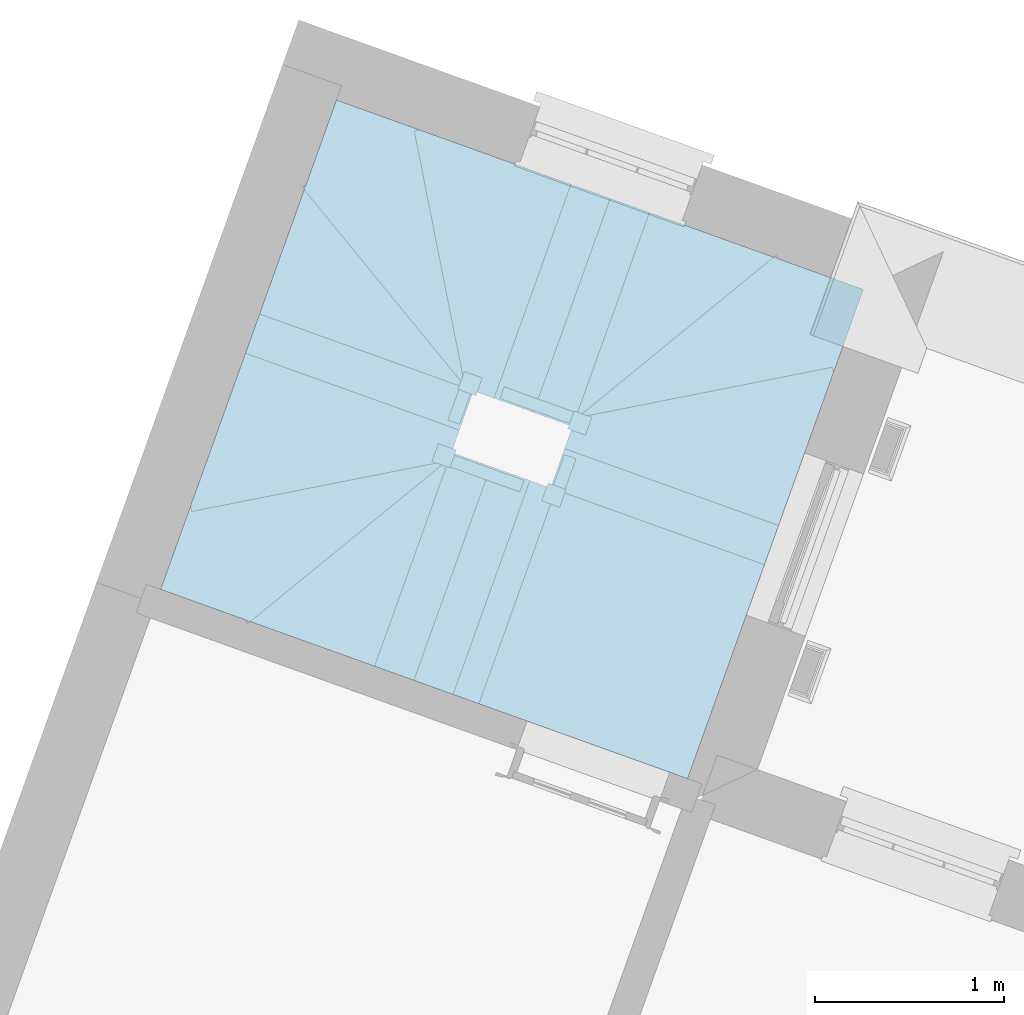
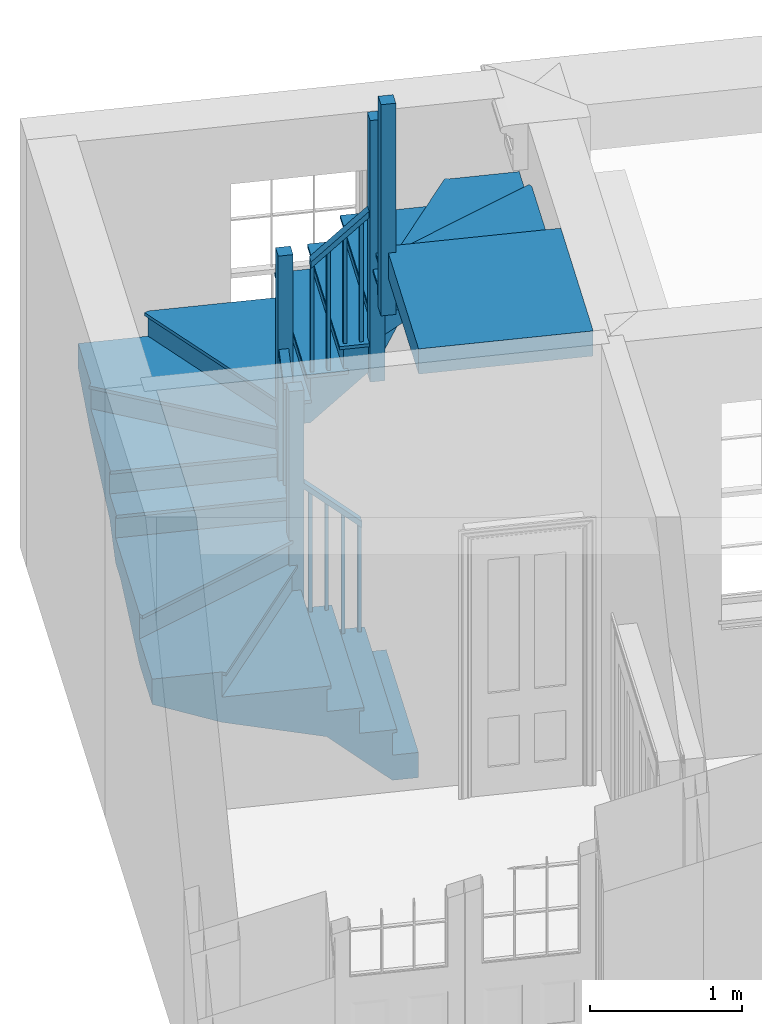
# One storey, part 8 of 8: 1 stair.
"""IFC4 building model written with IfcOpenShell, lengths in metres."""

from ifc_helpers import new_model, si_unit, frame, origin, origin_with_axes, place, context, subcontext, project, spatial, faceted_brep, element, save


model = new_model("IFC4")

# Units and contexts
model_context = context("Model", 3, world=origin_with_axes())
body_context = subcontext(model_context, "Body", "Model", "MODEL_VIEW")
ifc_project = project(units=[si_unit("PLANEANGLEUNIT", "RADIAN"), si_unit("MASSUNIT", "GRAM", prefix="KILO"), si_unit("FORCEUNIT", "NEWTON", prefix="KILO"), si_unit("LENGTHUNIT", "METRE"), si_unit("AREAUNIT", "SQUARE_METRE"), si_unit("VOLUMEUNIT", "CUBIC_METRE")], contexts=[model_context, model_context])

# Sites, building, storey
site_1_placement = place(None, origin_with_axes())
site_1 = spatial("IfcSite", under=ifc_project, at=site_1_placement, Name="Tamar")
site_2_placement = place(site_1_placement, origin_with_axes())
site_2 = spatial("IfcSite", under=site_1, at=site_2_placement, Name="Site plot-25", CompositionType="ELEMENT")
building_placement = place(None, origin_with_axes())
building = spatial("IfcBuilding", under=site_2, at=building_placement, Name="Building plot-25", CompositionType="ELEMENT")
storey_placement = place(None, frame((0.0, 0.0, 26.0), z_axis=(0.0, 0.0, 1.0), x_axis=(1.0, 0.0, 0.0)))
storey = spatial("IfcBuildingStorey", under=building, at=storey_placement, Name="plot-25 0", CompositionType="ELEMENT", Elevation=26.0)

# Stair
stair_placement = place(None, origin())
element("IfcStair", 1, at=stair_placement, inside=storey, Name="Stair", PredefinedType="NOTDEFINED", context=body_context, shape_type="Brep", body=[
    faceted_brep([(277.512074, 275.608882, 29.247059), (278.613146, 275.21323, 29.247059), (278.687542, 275.420269, 29.247059), (277.58647, 275.815921, 29.247059), (277.58647, 275.815921, 28.841176), (278.687542, 275.420269, 28.841176), (278.613146, 275.21323, 29.044118), (277.512074, 275.608882, 29.044118)], [[[0, 1, 2, 3]], [[4, 5, 6, 7]], [[7, 6, 1, 0]], [[1, 6, 5, 2]], [[5, 4, 3, 2]], [[3, 4, 7, 0]]]),
    faceted_brep([(278.687542, 275.420269, 29.222059), (278.697687, 275.448502, 29.222059), (278.687542, 275.420269, 29.247059), (278.603001, 275.184997, 29.222059), (278.613146, 275.21323, 29.222059), (278.613146, 275.21323, 29.247059), (278.697687, 275.448502, 29.247059), (278.603001, 275.184997, 29.247059), (277.568382, 275.854298, 29.247059), (277.58647, 275.815921, 29.247059), (277.58647, 275.815921, 29.222059), (277.568382, 275.854298, 29.222059), (277.473696, 275.590794, 29.247059), (277.512074, 275.608882, 29.247059), (277.512074, 275.608882, 29.222059), (277.473696, 275.590794, 29.222059)], [[[0, 1, 2]], [[3, 4, 5]], [[1, 6, 2]], [[7, 3, 5]], [[2, 6, 8, 9]], [[0, 2, 9, 10]], [[1, 0, 10, 11]], [[6, 1, 11, 8]], [[9, 8, 12, 13]], [[10, 9, 13, 14]], [[11, 10, 14, 15]], [[8, 11, 15, 12]], [[13, 12, 7, 5]], [[14, 13, 5, 4]], [[15, 14, 4, 3]], [[12, 15, 3, 7]]]),
    faceted_brep([(277.58647, 275.815921, 30.147059), (277.578016, 275.792394, 30.147059), (277.601543, 275.78394, 30.147059), (277.609997, 275.807467, 30.147059), (277.609997, 275.807467, 29.247059), (277.601543, 275.78394, 29.247059), (277.578016, 275.792394, 29.247059), (277.58647, 275.815921, 29.247059)], [[[0, 1, 2, 3]], [[4, 5, 6, 7]], [[7, 6, 1, 0]], [[6, 5, 2, 1]], [[5, 4, 3, 2]], [[4, 7, 0, 3]]]),
    faceted_brep([(277.549272, 275.712401, 30.248529), (277.540818, 275.688874, 30.248529), (277.564345, 275.68042, 30.248529), (277.572799, 275.703947, 30.248529), (277.572799, 275.703947, 29.247059), (277.564345, 275.68042, 29.247059), (277.540818, 275.688874, 29.247059), (277.549272, 275.712401, 29.247059)], [[[0, 1, 2, 3]], [[4, 5, 6, 7]], [[7, 6, 1, 0]], [[6, 5, 2, 1]], [[5, 4, 3, 2]], [[4, 7, 0, 3]]]),
    faceted_brep([(277.628819, 275.800704, 30.097059), (277.567648, 275.822684, 30.097059), (277.567648, 275.822684, 30.147059), (277.628819, 275.800704, 30.147059), (277.493252, 275.615645, 30.3), (277.554423, 275.593664, 30.3), (277.554423, 275.593664, 30.35), (277.493252, 275.615645, 30.35)], [[[0, 1, 2, 3]], [[4, 5, 6, 7]], [[0, 5, 4, 1]], [[3, 2, 7, 6]], [[0, 3, 6, 5]], [[2, 1, 4, 7]]]),
    faceted_brep([(277.58647, 275.815921, 29.044118), (278.687542, 275.420269, 29.044118), (278.749829, 275.59361, 29.044118), (277.648757, 275.989262, 29.044118), (277.648757, 275.989262, 28.841176), (278.749829, 275.59361, 28.841176), (278.687542, 275.420269, 28.841176), (277.58647, 275.815921, 28.841176)], [[[0, 1, 2, 3]], [[4, 5, 6, 7]], [[7, 6, 1, 0]], [[6, 5, 2, 1]], [[5, 4, 3, 2]], [[4, 7, 0, 3]]]),
    faceted_brep([(277.648757, 275.989262, 29.019118), (277.620524, 275.999407, 29.019118), (277.648757, 275.989262, 29.044118), (277.558237, 275.826066, 29.019118), (277.58647, 275.815921, 29.019118), (277.58647, 275.815921, 29.044118), (277.620524, 275.999407, 29.044118), (277.558237, 275.826066, 29.044118)], [[[0, 1, 2]], [[3, 4, 5]], [[1, 6, 2]], [[7, 3, 5]], [[2, 6, 7, 5]], [[0, 2, 5, 4]], [[1, 0, 4, 3]], [[6, 1, 3, 7]]]),
    faceted_brep([(277.618611, 276.053224, 30.244118), (277.584794, 275.959115, 30.244118), (277.678903, 275.925299, 30.244118), (277.712719, 276.019408, 30.244118), (277.712719, 276.019408, 29.044118), (277.678903, 275.925299, 29.044118), (277.584794, 275.959115, 29.044118), (277.618611, 276.053224, 29.044118)], [[[0, 1, 2, 3]], [[4, 5, 6, 7]], [[7, 6, 1, 0]], [[6, 5, 2, 1]], [[5, 4, 3, 2]], [[4, 7, 0, 3]]]),
    faceted_brep([(278.749829, 275.59361, 29.044118), (278.98722, 276.254253, 29.044118), (277.648757, 275.989262, 29.044118), (277.648757, 275.989262, 28.638235), (278.98722, 276.254253, 28.638235), (278.749829, 275.59361, 28.841176)], [[[0, 1, 2]], [[3, 4, 5]], [[0, 5, 4, 1]], [[4, 3, 2, 1]], [[2, 3, 5, 0]]]),
    faceted_brep([(278.981394, 276.283682, 29.019118), (278.981394, 276.283682, 29.044118), (278.98722, 276.254253, 29.019118), (277.642931, 276.01869, 29.044118), (277.642931, 276.01869, 29.019118), (277.648757, 275.989262, 29.019118), (278.98722, 276.254253, 29.044118), (277.648757, 275.989262, 29.044118)], [[[0, 1, 2]], [[3, 4, 5]], [[2, 1, 6]], [[3, 5, 7]], [[6, 1, 3, 7]], [[2, 6, 7, 5]], [[0, 2, 5, 4]], [[1, 0, 4, 3]]]),
    faceted_brep([(278.98722, 276.254253, 28.841176), (279.145481, 276.694682, 28.841176), (278.705052, 276.852942, 28.841176), (277.648757, 275.989262, 28.841176), (277.648757, 275.989262, 28.435294), (278.705052, 276.852942, 28.435294), (279.145481, 276.694682, 28.638235), (278.98722, 276.254253, 28.638235)], [[[0, 1, 2, 3]], [[4, 5, 6, 7]], [[7, 6, 1, 0]], [[1, 6, 5, 2]], [[5, 4, 3, 2]], [[3, 4, 7, 0]]]),
    faceted_brep([(278.686062, 276.876167, 28.816176), (278.686062, 276.876167, 28.841176), (278.705052, 276.852942, 28.816176), (277.629767, 276.012486, 28.841176), (277.629767, 276.012486, 28.816176), (277.648757, 275.989262, 28.816176), (278.705052, 276.852942, 28.841176), (277.648757, 275.989262, 28.841176)], [[[0, 1, 2]], [[3, 4, 5]], [[2, 1, 6]], [[3, 5, 7]], [[6, 1, 3, 7]], [[2, 6, 7, 5]], [[0, 2, 5, 4]], [[1, 0, 4, 3]]]),
    faceted_brep([(278.705052, 276.852942, 28.638235), (278.044409, 277.090334, 28.638235), (277.648757, 275.989262, 28.638235), (277.648757, 275.989262, 28.232353), (278.044409, 277.090334, 28.232353), (278.705052, 276.852942, 28.435294)], [[[0, 1, 2]], [[3, 4, 5]], [[0, 5, 4, 1]], [[4, 3, 2, 1]], [[2, 3, 5, 0]]]),
    faceted_brep([(278.016176, 277.100479, 28.613235), (278.016176, 277.100479, 28.638235), (278.044409, 277.090334, 28.613235), (277.620524, 275.999407, 28.638235), (277.620524, 275.999407, 28.613235), (277.648757, 275.989262, 28.613235), (278.044409, 277.090334, 28.638235), (277.648757, 275.989262, 28.638235)], [[[0, 1, 2]], [[3, 4, 5]], [[2, 1, 6]], [[3, 5, 7]], [[6, 1, 3, 7]], [[2, 6, 7, 5]], [[0, 2, 5, 4]], [[1, 0, 4, 3]]]),
    faceted_brep([(277.618611, 276.053224, 29.044118), (277.584794, 275.959115, 29.044118), (277.678903, 275.925299, 29.044118), (277.712719, 276.019408, 29.044118), (277.712719, 276.019408, 28.138235), (277.678903, 275.925299, 28.138235), (277.584794, 275.959115, 28.138235), (277.618611, 276.053224, 28.138235)], [[[0, 1, 2, 3]], [[4, 5, 6, 7]], [[7, 6, 1, 0]], [[6, 5, 2, 1]], [[5, 4, 3, 2]], [[4, 7, 0, 3]]]),
    faceted_brep([(277.648757, 275.989262, 28.435294), (278.044409, 277.090334, 28.435294), (277.83737, 277.16473, 28.435294), (277.441718, 276.063658, 28.435294), (277.441718, 276.063658, 28.029412), (277.83737, 277.16473, 28.029412), (278.044409, 277.090334, 28.232353), (277.648757, 275.989262, 28.232353)], [[[0, 1, 2, 3]], [[4, 5, 6, 7]], [[7, 6, 1, 0]], [[1, 6, 5, 2]], [[5, 4, 3, 2]], [[3, 4, 7, 0]]]),
    faceted_brep([(277.809137, 277.174875, 28.410294), (277.809137, 277.174875, 28.435294), (277.83737, 277.16473, 28.410294), (278.072642, 277.080189, 28.435294), (278.072642, 277.080189, 28.410294), (278.044409, 277.090334, 28.410294), (277.83737, 277.16473, 28.435294), (278.044409, 277.090334, 28.435294), (277.40334, 276.04557, 28.435294), (277.441718, 276.063658, 28.435294), (277.441718, 276.063658, 28.410294), (277.40334, 276.04557, 28.410294), (277.666845, 275.950884, 28.435294), (277.648757, 275.989262, 28.435294), (277.648757, 275.989262, 28.410294), (277.666845, 275.950884, 28.410294)], [[[0, 1, 2]], [[3, 4, 5]], [[2, 1, 6]], [[3, 5, 7]], [[6, 1, 8, 9]], [[2, 6, 9, 10]], [[0, 2, 10, 11]], [[1, 0, 11, 8]], [[9, 8, 12, 13]], [[10, 9, 13, 14]], [[11, 10, 14, 15]], [[8, 11, 15, 12]], [[13, 12, 3, 7]], [[14, 13, 7, 5]], [[15, 14, 5, 4]], [[12, 15, 4, 3]]]),
    faceted_brep([(277.441718, 276.063658, 29.335294), (277.465245, 276.055204, 29.335294), (277.473699, 276.078731, 29.335294), (277.450172, 276.087185, 29.335294), (277.450172, 276.087185, 28.435294), (277.473699, 276.078731, 28.435294), (277.465245, 276.055204, 28.435294), (277.441718, 276.063658, 28.435294)], [[[0, 1, 2, 3]], [[4, 5, 6, 7]], [[7, 6, 1, 0]], [[6, 5, 2, 1]], [[5, 4, 3, 2]], [[4, 7, 0, 3]]]),
    faceted_brep([(277.545237, 276.02646, 29.436765), (277.568765, 276.018006, 29.436765), (277.577219, 276.041533, 29.436765), (277.553691, 276.049987, 29.436765), (277.553691, 276.049987, 28.435294), (277.577219, 276.041533, 28.435294), (277.568765, 276.018006, 28.435294), (277.545237, 276.02646, 28.435294)], [[[0, 1, 2, 3]], [[4, 5, 6, 7]], [[7, 6, 1, 0]], [[6, 5, 2, 1]], [[5, 4, 3, 2]], [[4, 7, 0, 3]]]),
    faceted_brep([(277.456935, 276.106007, 29.285294), (277.434954, 276.044836, 29.285294), (277.434954, 276.044836, 29.335294), (277.456935, 276.106007, 29.335294), (277.641994, 275.97044, 29.488235), (277.663974, 276.031611, 29.488235), (277.663974, 276.031611, 29.538235), (277.641994, 275.97044, 29.538235)], [[[0, 1, 2, 3]], [[4, 5, 6, 7]], [[0, 5, 4, 1]], [[3, 2, 7, 6]], [[0, 3, 6, 5]], [[2, 1, 4, 7]]]),
    faceted_brep([(277.441718, 276.063658, 28.232353), (277.83737, 277.16473, 28.232353), (277.630331, 277.239126, 28.232353), (277.234679, 276.138054, 28.232353), (277.234679, 276.138054, 27.826471), (277.630331, 277.239126, 27.826471), (277.83737, 277.16473, 28.029412), (277.441718, 276.063658, 28.029412)], [[[0, 1, 2, 3]], [[4, 5, 6, 7]], [[7, 6, 1, 0]], [[1, 6, 5, 2]], [[5, 4, 3, 2]], [[3, 4, 7, 0]]]),
    faceted_brep([(277.630331, 277.239126, 28.207353), (277.602098, 277.249271, 28.207353), (277.630331, 277.239126, 28.232353), (277.865602, 277.154585, 28.207353), (277.83737, 277.16473, 28.207353), (277.83737, 277.16473, 28.232353), (277.602098, 277.249271, 28.232353), (277.865602, 277.154585, 28.232353), (277.196301, 276.119966, 28.232353), (277.234679, 276.138054, 28.232353), (277.234679, 276.138054, 28.207353), (277.196301, 276.119966, 28.207353), (277.459805, 276.02528, 28.232353), (277.441718, 276.063658, 28.232353), (277.441718, 276.063658, 28.207353), (277.459805, 276.02528, 28.207353)], [[[0, 1, 2]], [[3, 4, 5]], [[1, 6, 2]], [[7, 3, 5]], [[2, 6, 8, 9]], [[0, 2, 9, 10]], [[1, 0, 10, 11]], [[6, 1, 11, 8]], [[9, 8, 12, 13]], [[10, 9, 13, 14]], [[11, 10, 14, 15]], [[8, 11, 15, 12]], [[13, 12, 7, 5]], [[14, 13, 5, 4]], [[15, 14, 4, 3]], [[12, 15, 3, 7]]]),
    faceted_brep([(277.234679, 276.138054, 29.132353), (277.258206, 276.1296, 29.132353), (277.26666, 276.153127, 29.132353), (277.243133, 276.161581, 29.132353), (277.243133, 276.161581, 28.232353), (277.26666, 276.153127, 28.232353), (277.258206, 276.1296, 28.232353), (277.234679, 276.138054, 28.232353)], [[[0, 1, 2, 3]], [[4, 5, 6, 7]], [[7, 6, 1, 0]], [[6, 5, 2, 1]], [[5, 4, 3, 2]], [[4, 7, 0, 3]]]),
    faceted_brep([(277.338198, 276.100856, 29.233824), (277.361725, 276.092402, 29.233824), (277.370179, 276.115929, 29.233824), (277.346652, 276.124383, 29.233824), (277.346652, 276.124383, 28.232353), (277.370179, 276.115929, 28.232353), (277.361725, 276.092402, 28.232353), (277.338198, 276.100856, 28.232353)], [[[0, 1, 2, 3]], [[4, 5, 6, 7]], [[7, 6, 1, 0]], [[6, 5, 2, 1]], [[5, 4, 3, 2]], [[4, 7, 0, 3]]]),
    faceted_brep([(277.249896, 276.180403, 29.082353), (277.227915, 276.119232, 29.082353), (277.227915, 276.119232, 29.132353), (277.249896, 276.180403, 29.132353), (277.434954, 276.044836, 29.285294), (277.456935, 276.106007, 29.285294), (277.456935, 276.106007, 29.335294), (277.434954, 276.044836, 29.335294)], [[[0, 1, 2, 3]], [[4, 5, 6, 7]], [[0, 5, 4, 1]], [[3, 2, 7, 6]], [[0, 3, 6, 5]], [[2, 1, 4, 7]]]),
    faceted_brep([(277.234679, 276.138054, 28.029412), (277.630331, 277.239126, 28.029412), (277.465504, 277.298353, 28.029412), (277.069852, 276.197281, 28.029412), (277.069852, 276.197281, 27.826471), (277.465504, 277.298353, 27.826471), (277.630331, 277.239126, 27.826471), (277.234679, 276.138054, 27.826471)], [[[0, 1, 2, 3]], [[4, 5, 6, 7]], [[7, 6, 1, 0]], [[6, 5, 2, 1]], [[5, 4, 3, 2]], [[4, 7, 0, 3]]]),
    faceted_brep([(277.059707, 276.169049, 28.004412), (277.059707, 276.169049, 28.029412), (277.069852, 276.197281, 28.004412), (277.224534, 276.109821, 28.029412), (277.224534, 276.109821, 28.004412), (277.234679, 276.138054, 28.004412), (277.069852, 276.197281, 28.029412), (277.234679, 276.138054, 28.029412)], [[[0, 1, 2]], [[3, 4, 5]], [[2, 1, 6]], [[3, 5, 7]], [[6, 1, 3, 7]], [[2, 6, 7, 5]], [[0, 2, 5, 4]], [[1, 0, 4, 3]]]),
    faceted_brep([(277.00589, 276.167135, 29.229412), (277.099998, 276.133319, 29.229412), (277.133815, 276.227428, 29.229412), (277.039706, 276.261244, 29.229412), (277.039706, 276.261244, 28.029412), (277.133815, 276.227428, 28.029412), (277.099998, 276.133319, 28.029412), (277.00589, 276.167135, 28.029412)], [[[0, 1, 2, 3]], [[4, 5, 6, 7]], [[7, 6, 1, 0]], [[6, 5, 2, 1]], [[5, 4, 3, 2]], [[4, 7, 0, 3]]]),
    faceted_brep([(277.465504, 277.298353, 28.029412), (276.804861, 277.535745, 28.029412), (277.069852, 276.197281, 28.029412), (277.069852, 276.197281, 27.623529), (276.804861, 277.535745, 27.623529), (277.465504, 277.298353, 27.826471)], [[[0, 1, 2]], [[3, 4, 5]], [[0, 5, 4, 1]], [[4, 3, 2, 1]], [[2, 3, 5, 0]]]),
    faceted_brep([(276.775432, 277.529918, 28.004412), (276.775432, 277.529918, 28.029412), (276.804861, 277.535745, 28.004412), (277.040423, 276.191455, 28.029412), (277.040423, 276.191455, 28.004412), (277.069852, 276.197281, 28.004412), (276.804861, 277.535745, 28.029412), (277.069852, 276.197281, 28.029412)], [[[0, 1, 2]], [[3, 4, 5]], [[2, 1, 6]], [[3, 5, 7]], [[6, 1, 3, 7]], [[2, 6, 7, 5]], [[0, 2, 5, 4]], [[1, 0, 4, 3]]]),
    faceted_brep([(276.804861, 277.535745, 27.826471), (276.364432, 277.694005, 27.826471), (276.206171, 277.253577, 27.826471), (277.069852, 276.197281, 27.826471), (277.069852, 276.197281, 27.420588), (276.206171, 277.253577, 27.420588), (276.364432, 277.694005, 27.623529), (276.804861, 277.535745, 27.623529)], [[[0, 1, 2, 3]], [[4, 5, 6, 7]], [[7, 6, 1, 0]], [[1, 6, 5, 2]], [[5, 4, 3, 2]], [[3, 4, 7, 0]]]),
    faceted_brep([(276.182947, 277.234587, 27.801471), (276.182947, 277.234587, 27.826471), (276.206171, 277.253577, 27.801471), (277.046627, 276.178292, 27.826471), (277.046627, 276.178292, 27.801471), (277.069852, 276.197281, 27.801471), (276.206171, 277.253577, 27.826471), (277.069852, 276.197281, 27.826471)], [[[0, 1, 2]], [[3, 4, 5]], [[2, 1, 6]], [[3, 5, 7]], [[6, 1, 3, 7]], [[2, 6, 7, 5]], [[0, 2, 5, 4]], [[1, 0, 4, 3]]]),
    faceted_brep([(276.206171, 277.253577, 27.623529), (275.96878, 276.592933, 27.623529), (277.069852, 276.197281, 27.623529), (277.069852, 276.197281, 27.217647), (275.96878, 276.592933, 27.217647), (276.206171, 277.253577, 27.420588)], [[[0, 1, 2]], [[3, 4, 5]], [[0, 5, 4, 1]], [[4, 3, 2, 1]], [[2, 3, 5, 0]]]),
    faceted_brep([(275.96878, 276.592933, 27.598529), (275.958635, 276.564701, 27.598529), (275.96878, 276.592933, 27.623529), (277.059707, 276.169049, 27.598529), (277.069852, 276.197281, 27.598529), (277.069852, 276.197281, 27.623529), (275.958635, 276.564701, 27.623529), (277.059707, 276.169049, 27.623529)], [[[0, 1, 2]], [[3, 4, 5]], [[1, 6, 2]], [[7, 3, 5]], [[2, 6, 7, 5]], [[0, 2, 5, 4]], [[1, 0, 4, 3]], [[6, 1, 3, 7]]]),
    faceted_brep([(277.00589, 276.167135, 28.029412), (277.099998, 276.133319, 28.029412), (277.133815, 276.227428, 28.029412), (277.039706, 276.261244, 28.029412), (277.039706, 276.261244, 27.123529), (277.133815, 276.227428, 27.123529), (277.099998, 276.133319, 27.123529), (277.00589, 276.167135, 27.123529)], [[[0, 1, 2, 3]], [[4, 5, 6, 7]], [[7, 6, 1, 0]], [[6, 5, 2, 1]], [[5, 4, 3, 2]], [[4, 7, 0, 3]]]),
    faceted_brep([(277.069852, 276.197281, 27.420588), (275.96878, 276.592933, 27.420588), (275.894384, 276.385894, 27.420588), (276.995456, 275.990242, 27.420588), (276.995456, 275.990242, 27.014706), (275.894384, 276.385894, 27.014706), (275.96878, 276.592933, 27.217647), (277.069852, 276.197281, 27.217647)], [[[0, 1, 2, 3]], [[4, 5, 6, 7]], [[7, 6, 1, 0]], [[1, 6, 5, 2]], [[5, 4, 3, 2]], [[3, 4, 7, 0]]]),
    faceted_brep([(275.894384, 276.385894, 27.395588), (275.884239, 276.357662, 27.395588), (275.894384, 276.385894, 27.420588), (275.978925, 276.621166, 27.395588), (275.96878, 276.592933, 27.395588), (275.96878, 276.592933, 27.420588), (275.884239, 276.357662, 27.420588), (275.978925, 276.621166, 27.420588), (277.013544, 275.951865, 27.420588), (276.995456, 275.990242, 27.420588), (276.995456, 275.990242, 27.395588), (277.013544, 275.951865, 27.395588), (277.10823, 276.215369, 27.420588), (277.069852, 276.197281, 27.420588), (277.069852, 276.197281, 27.395588), (277.10823, 276.215369, 27.395588)], [[[0, 1, 2]], [[3, 4, 5]], [[1, 6, 2]], [[7, 3, 5]], [[2, 6, 8, 9]], [[0, 2, 9, 10]], [[1, 0, 10, 11]], [[6, 1, 11, 8]], [[9, 8, 12, 13]], [[10, 9, 13, 14]], [[11, 10, 14, 15]], [[8, 11, 15, 12]], [[13, 12, 7, 5]], [[14, 13, 5, 4]], [[15, 14, 4, 3]], [[12, 15, 3, 7]]]),
    faceted_brep([(276.995456, 275.990242, 28.320588), (277.00391, 276.013769, 28.320588), (276.980383, 276.022224, 28.320588), (276.971929, 275.998696, 28.320588), (276.971929, 275.998696, 27.420588), (276.980383, 276.022224, 27.420588), (277.00391, 276.013769, 27.420588), (276.995456, 275.990242, 27.420588)], [[[0, 1, 2, 3]], [[4, 5, 6, 7]], [[7, 6, 1, 0]], [[6, 5, 2, 1]], [[5, 4, 3, 2]], [[4, 7, 0, 3]]]),
    faceted_brep([(277.032654, 276.093762, 28.422059), (277.041108, 276.117289, 28.422059), (277.017581, 276.125743, 28.422059), (277.009127, 276.102216, 28.422059), (277.009127, 276.102216, 27.420588), (277.017581, 276.125743, 27.420588), (277.041108, 276.117289, 27.420588), (277.032654, 276.093762, 27.420588)], [[[0, 1, 2, 3]], [[4, 5, 6, 7]], [[7, 6, 1, 0]], [[6, 5, 2, 1]], [[5, 4, 3, 2]], [[4, 7, 0, 3]]]),
    faceted_brep([(276.953107, 276.00546, 28.270588), (277.014278, 275.983479, 28.270588), (277.014278, 275.983479, 28.320588), (276.953107, 276.00546, 28.320588), (277.088674, 276.190518, 28.473529), (277.027503, 276.212499, 28.473529), (277.027503, 276.212499, 28.523529), (277.088674, 276.190518, 28.523529)], [[[0, 1, 2, 3]], [[4, 5, 6, 7]], [[0, 5, 4, 1]], [[3, 2, 7, 6]], [[0, 3, 6, 5]], [[2, 1, 4, 7]]]),
    faceted_brep([(276.995456, 275.990242, 27.217647), (275.894384, 276.385894, 27.217647), (275.832097, 276.212554, 27.217647), (276.933169, 275.816902, 27.217647), (276.933169, 275.816902, 27.014706), (275.832097, 276.212554, 27.014706), (275.894384, 276.385894, 27.014706), (276.995456, 275.990242, 27.014706)], [[[0, 1, 2, 3]], [[4, 5, 6, 7]], [[7, 6, 1, 0]], [[6, 5, 2, 1]], [[5, 4, 3, 2]], [[4, 7, 0, 3]]]),
    faceted_brep([(276.961402, 275.806757, 27.192647), (276.961402, 275.806757, 27.217647), (276.933169, 275.816902, 27.192647), (277.023689, 275.980097, 27.217647), (277.023689, 275.980097, 27.192647), (276.995456, 275.990242, 27.192647), (276.933169, 275.816902, 27.217647), (276.995456, 275.990242, 27.217647)], [[[0, 1, 2]], [[3, 4, 5]], [[2, 1, 6]], [[3, 5, 7]], [[6, 1, 3, 7]], [[2, 6, 7, 5]], [[0, 2, 5, 4]], [[1, 0, 4, 3]]]),
    faceted_brep([(276.963315, 275.752939, 28.417647), (276.997132, 275.847048, 28.417647), (276.903023, 275.880864, 28.417647), (276.869206, 275.786755, 28.417647), (276.869206, 275.786755, 27.217647), (276.903023, 275.880864, 27.217647), (276.997132, 275.847048, 27.217647), (276.963315, 275.752939, 27.217647)], [[[0, 1, 2, 3]], [[4, 5, 6, 7]], [[7, 6, 1, 0]], [[6, 5, 2, 1]], [[5, 4, 3, 2]], [[4, 7, 0, 3]]]),
    faceted_brep([(275.832097, 276.212554, 27.217647), (275.594706, 275.55191, 27.217647), (276.933169, 275.816902, 27.217647), (276.933169, 275.816902, 26.811765), (275.594706, 275.55191, 26.811765), (275.832097, 276.212554, 27.014706)], [[[0, 1, 2]], [[3, 4, 5]], [[0, 5, 4, 1]], [[4, 3, 2, 1]], [[2, 3, 5, 0]]]),
    faceted_brep([(275.594706, 275.55191, 27.192647), (275.600532, 275.522482, 27.192647), (275.594706, 275.55191, 27.217647), (276.938995, 275.787473, 27.192647), (276.933169, 275.816902, 27.192647), (276.933169, 275.816902, 27.217647), (275.600532, 275.522482, 27.217647), (276.938995, 275.787473, 27.217647)], [[[0, 1, 2]], [[3, 4, 5]], [[1, 6, 2]], [[7, 3, 5]], [[2, 6, 7, 5]], [[0, 2, 5, 4]], [[1, 0, 4, 3]], [[6, 1, 3, 7]]]),
    faceted_brep([(275.594706, 275.55191, 27.014706), (275.436445, 275.111482, 27.014706), (275.876874, 274.953221, 27.014706), (276.933169, 275.816902, 27.014706), (276.933169, 275.816902, 26.608824), (275.876874, 274.953221, 26.608824), (275.436445, 275.111482, 26.811765), (275.594706, 275.55191, 26.811765)], [[[0, 1, 2, 3]], [[4, 5, 6, 7]], [[7, 6, 1, 0]], [[1, 6, 5, 2]], [[5, 4, 3, 2]], [[3, 4, 7, 0]]]),
    faceted_brep([(275.876874, 274.953221, 26.989706), (275.895864, 274.929996, 26.989706), (275.876874, 274.953221, 27.014706), (276.952159, 275.793677, 26.989706), (276.933169, 275.816902, 26.989706), (276.933169, 275.816902, 27.014706), (275.895864, 274.929996, 27.014706), (276.952159, 275.793677, 27.014706)], [[[0, 1, 2]], [[3, 4, 5]], [[1, 6, 2]], [[7, 3, 5]], [[2, 6, 7, 5]], [[0, 2, 5, 4]], [[1, 0, 4, 3]], [[6, 1, 3, 7]]]),
    faceted_brep([(275.876874, 274.953221, 26.811765), (276.537517, 274.71583, 26.811765), (276.933169, 275.816902, 26.811765), (276.933169, 275.816902, 26.405882), (276.537517, 274.71583, 26.405882), (275.876874, 274.953221, 26.608824)], [[[0, 1, 2]], [[3, 4, 5]], [[0, 5, 4, 1]], [[4, 3, 2, 1]], [[2, 3, 5, 0]]]),
    faceted_brep([(276.56575, 274.705685, 26.786765), (276.56575, 274.705685, 26.811765), (276.537517, 274.71583, 26.786765), (276.961402, 275.806757, 26.811765), (276.961402, 275.806757, 26.786765), (276.933169, 275.816902, 26.786765), (276.537517, 274.71583, 26.811765), (276.933169, 275.816902, 26.811765)], [[[0, 1, 2]], [[3, 4, 5]], [[2, 1, 6]], [[3, 5, 7]], [[6, 1, 3, 7]], [[2, 6, 7, 5]], [[0, 2, 5, 4]], [[1, 0, 4, 3]]]),
    faceted_brep([(276.963315, 275.752939, 27.217647), (276.997132, 275.847048, 27.217647), (276.903023, 275.880864, 27.217647), (276.869206, 275.786755, 27.217647), (276.869206, 275.786755, 26.311765), (276.903023, 275.880864, 26.311765), (276.997132, 275.847048, 26.311765), (276.963315, 275.752939, 26.311765)], [[[0, 1, 2, 3]], [[4, 5, 6, 7]], [[7, 6, 1, 0]], [[6, 5, 2, 1]], [[5, 4, 3, 2]], [[4, 7, 0, 3]]]),
    faceted_brep([(276.933169, 275.816902, 26.608824), (276.537517, 274.71583, 26.608824), (276.744556, 274.641434, 26.608824), (277.140208, 275.742505, 26.608824), (277.140208, 275.742505, 26.202941), (276.744556, 274.641434, 26.202941), (276.537517, 274.71583, 26.405882), (276.933169, 275.816902, 26.405882)], [[[0, 1, 2, 3]], [[4, 5, 6, 7]], [[7, 6, 1, 0]], [[1, 6, 5, 2]], [[5, 4, 3, 2]], [[3, 4, 7, 0]]]),
    faceted_brep([(276.744556, 274.641434, 26.583824), (276.772789, 274.631289, 26.583824), (276.744556, 274.641434, 26.608824), (276.509284, 274.725975, 26.583824), (276.537517, 274.71583, 26.583824), (276.537517, 274.71583, 26.608824), (276.772789, 274.631289, 26.608824), (276.509284, 274.725975, 26.608824), (277.178586, 275.760593, 26.608824), (277.140208, 275.742505, 26.608824), (277.140208, 275.742505, 26.583824), (277.178586, 275.760593, 26.583824), (276.915081, 275.855279, 26.608824), (276.933169, 275.816902, 26.608824), (276.933169, 275.816902, 26.583824), (276.915081, 275.855279, 26.583824)], [[[0, 1, 2]], [[3, 4, 5]], [[1, 6, 2]], [[7, 3, 5]], [[2, 6, 8, 9]], [[0, 2, 9, 10]], [[1, 0, 10, 11]], [[6, 1, 11, 8]], [[9, 8, 12, 13]], [[10, 9, 13, 14]], [[11, 10, 14, 15]], [[8, 11, 15, 12]], [[13, 12, 7, 5]], [[14, 13, 5, 4]], [[15, 14, 4, 3]], [[12, 15, 3, 7]]]),
    faceted_brep([(277.140208, 275.742505, 27.508824), (277.116681, 275.75096, 27.508824), (277.108227, 275.727432, 27.508824), (277.131754, 275.718978, 27.508824), (277.131754, 275.718978, 26.608824), (277.108227, 275.727432, 26.608824), (277.116681, 275.75096, 26.608824), (277.140208, 275.742505, 26.608824)], [[[0, 1, 2, 3]], [[4, 5, 6, 7]], [[7, 6, 1, 0]], [[6, 5, 2, 1]], [[5, 4, 3, 2]], [[4, 7, 0, 3]]]),
    faceted_brep([(277.036689, 275.779704, 27.610294), (277.013161, 275.788158, 27.610294), (277.004707, 275.76463, 27.610294), (277.028234, 275.756176, 27.610294), (277.028234, 275.756176, 26.608824), (277.004707, 275.76463, 26.608824), (277.013161, 275.788158, 26.608824), (277.036689, 275.779704, 26.608824)], [[[0, 1, 2, 3]], [[4, 5, 6, 7]], [[7, 6, 1, 0]], [[6, 5, 2, 1]], [[5, 4, 3, 2]], [[4, 7, 0, 3]]]),
    faceted_brep([(277.124991, 275.700157, 27.458824), (277.146971, 275.761327, 27.458824), (277.146971, 275.761327, 27.508824), (277.124991, 275.700157, 27.508824), (276.939932, 275.835723, 27.661765), (276.917952, 275.774553, 27.661765), (276.917952, 275.774553, 27.711765), (276.939932, 275.835723, 27.711765)], [[[0, 1, 2, 3]], [[4, 5, 6, 7]], [[0, 5, 4, 1]], [[3, 2, 7, 6]], [[0, 3, 6, 5]], [[2, 1, 4, 7]]]),
    faceted_brep([(277.140208, 275.742505, 26.405882), (276.744556, 274.641434, 26.405882), (276.951595, 274.567037, 26.405882), (277.347247, 275.668109, 26.405882), (277.347247, 275.668109, 26.0), (276.951595, 274.567037, 26.0), (276.744556, 274.641434, 26.202941), (277.140208, 275.742505, 26.202941)], [[[0, 1, 2, 3]], [[4, 5, 6, 7]], [[7, 6, 1, 0]], [[1, 6, 5, 2]], [[5, 4, 3, 2]], [[3, 4, 7, 0]]]),
    faceted_brep([(276.951595, 274.567037, 26.380882), (276.979828, 274.556892, 26.380882), (276.951595, 274.567037, 26.405882), (276.716324, 274.651578, 26.380882), (276.744556, 274.641434, 26.380882), (276.744556, 274.641434, 26.405882), (276.979828, 274.556892, 26.405882), (276.716324, 274.651578, 26.405882), (277.385625, 275.686197, 26.405882), (277.347247, 275.668109, 26.405882), (277.347247, 275.668109, 26.380882), (277.385625, 275.686197, 26.380882), (277.12212, 275.780883, 26.405882), (277.140208, 275.742505, 26.405882), (277.140208, 275.742505, 26.380882), (277.12212, 275.780883, 26.380882)], [[[0, 1, 2]], [[3, 4, 5]], [[1, 6, 2]], [[7, 3, 5]], [[2, 6, 8, 9]], [[0, 2, 9, 10]], [[1, 0, 10, 11]], [[6, 1, 11, 8]], [[9, 8, 12, 13]], [[10, 9, 13, 14]], [[11, 10, 14, 15]], [[8, 11, 15, 12]], [[13, 12, 7, 5]], [[14, 13, 5, 4]], [[15, 14, 4, 3]], [[12, 15, 3, 7]]]),
    faceted_brep([(277.347247, 275.668109, 27.305882), (277.32372, 275.676563, 27.305882), (277.315266, 275.653036, 27.305882), (277.338793, 275.644582, 27.305882), (277.338793, 275.644582, 26.405882), (277.315266, 275.653036, 26.405882), (277.32372, 275.676563, 26.405882), (277.347247, 275.668109, 26.405882)], [[[0, 1, 2, 3]], [[4, 5, 6, 7]], [[7, 6, 1, 0]], [[6, 5, 2, 1]], [[5, 4, 3, 2]], [[4, 7, 0, 3]]]),
    faceted_brep([(277.243728, 275.705307, 27.407353), (277.220201, 275.713762, 27.407353), (277.211746, 275.690234, 27.407353), (277.235274, 275.68178, 27.407353), (277.235274, 275.68178, 26.405882), (277.211746, 275.690234, 26.405882), (277.220201, 275.713762, 26.405882), (277.243728, 275.705307, 26.405882)], [[[0, 1, 2, 3]], [[4, 5, 6, 7]], [[7, 6, 1, 0]], [[6, 5, 2, 1]], [[5, 4, 3, 2]], [[4, 7, 0, 3]]]),
    faceted_brep([(277.33203, 275.62576, 27.255882), (277.354011, 275.686931, 27.255882), (277.354011, 275.686931, 27.305882), (277.33203, 275.62576, 27.305882), (277.146971, 275.761327, 27.458824), (277.124991, 275.700157, 27.458824), (277.124991, 275.700157, 27.508824), (277.146971, 275.761327, 27.508824)], [[[0, 1, 2, 3]], [[4, 5, 6, 7]], [[0, 5, 4, 1]], [[3, 2, 7, 6]], [[0, 3, 6, 5]], [[2, 1, 4, 7]]]),
    faceted_brep([(277.347247, 275.668109, 26.202941), (276.951595, 274.567037, 26.202941), (277.116422, 274.50781, 26.202941), (277.512074, 275.608882, 26.202941), (277.512074, 275.608882, 26.0), (277.116422, 274.50781, 26.0), (276.951595, 274.567037, 26.0), (277.347247, 275.668109, 26.0)], [[[0, 1, 2, 3]], [[4, 5, 6, 7]], [[7, 6, 1, 0]], [[6, 5, 2, 1]], [[5, 4, 3, 2]], [[4, 7, 0, 3]]]),
    faceted_brep([(277.512074, 275.608882, 26.177941), (277.522219, 275.637114, 26.177941), (277.512074, 275.608882, 26.202941), (277.357392, 275.696342, 26.177941), (277.347247, 275.668109, 26.177941), (277.347247, 275.668109, 26.202941), (277.522219, 275.637114, 26.202941), (277.357392, 275.696342, 26.202941)], [[[0, 1, 2]], [[3, 4, 5]], [[1, 6, 2]], [[7, 3, 5]], [[2, 6, 7, 5]], [[0, 2, 5, 4]], [[1, 0, 4, 3]], [[6, 1, 3, 7]]]),
    faceted_brep([(277.576036, 275.639028, 30.65), (277.481928, 275.672844, 30.65), (277.448111, 275.578736, 30.65), (277.54222, 275.544919, 30.65), (277.54222, 275.544919, 29.45), (277.448111, 275.578736, 29.45), (277.481928, 275.672844, 29.45), (277.576036, 275.639028, 29.45)], [[[0, 1, 2, 3]], [[4, 5, 6, 7]], [[7, 6, 1, 0]], [[6, 5, 2, 1]], [[5, 4, 3, 2]], [[4, 7, 0, 3]]]),
    faceted_brep([(277.512074, 275.608882, 29.45), (277.116422, 274.50781, 29.45), (278.217494, 274.112158, 29.45), (278.613146, 275.21323, 29.45), (278.613146, 275.21323, 29.247059), (278.217494, 274.112158, 29.247059), (277.116422, 274.50781, 29.247059), (277.512074, 275.608882, 29.247059)], [[[0, 1, 2, 3]], [[4, 5, 6, 7]], [[7, 6, 1, 0]], [[6, 5, 2, 1]], [[5, 4, 3, 2]], [[4, 7, 0, 3]]]),
    faceted_brep([(278.623291, 275.241462, 29.425), (278.623291, 275.241462, 29.45), (278.613146, 275.21323, 29.425), (277.522219, 275.637114, 29.45), (277.522219, 275.637114, 29.425), (277.512074, 275.608882, 29.425), (278.613146, 275.21323, 29.45), (277.512074, 275.608882, 29.45)], [[[0, 1, 2]], [[3, 4, 5]], [[2, 1, 6]], [[3, 5, 7]], [[6, 1, 3, 7]], [[2, 6, 7, 5]], [[0, 2, 5, 4]], [[1, 0, 4, 3]]]),
    faceted_brep([(277.576036, 275.639028, 29.45), (277.481928, 275.672844, 29.45), (277.448111, 275.578736, 29.45), (277.54222, 275.544919, 29.45), (277.54222, 275.544919, 28.95), (277.448111, 275.578736, 28.95), (277.481928, 275.672844, 28.95), (277.576036, 275.639028, 28.95)], [[[0, 1, 2, 3]], [[4, 5, 6, 7]], [[7, 6, 1, 0]], [[6, 5, 2, 1]], [[5, 4, 3, 2]], [[4, 7, 0, 3]]]),
])

save(model, "model.ifc")
